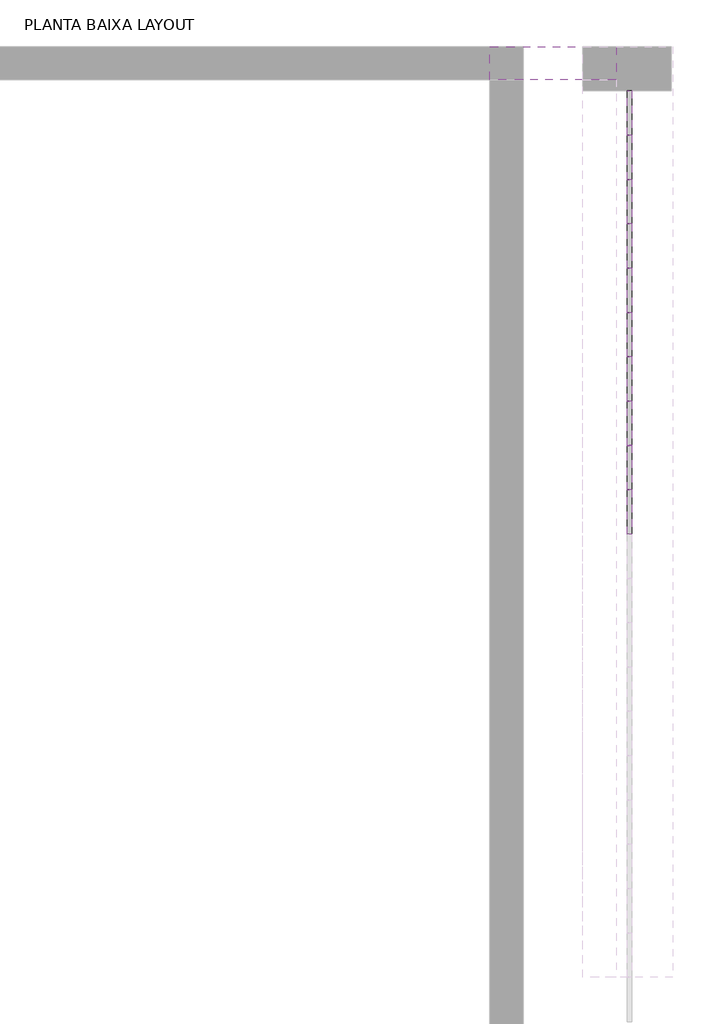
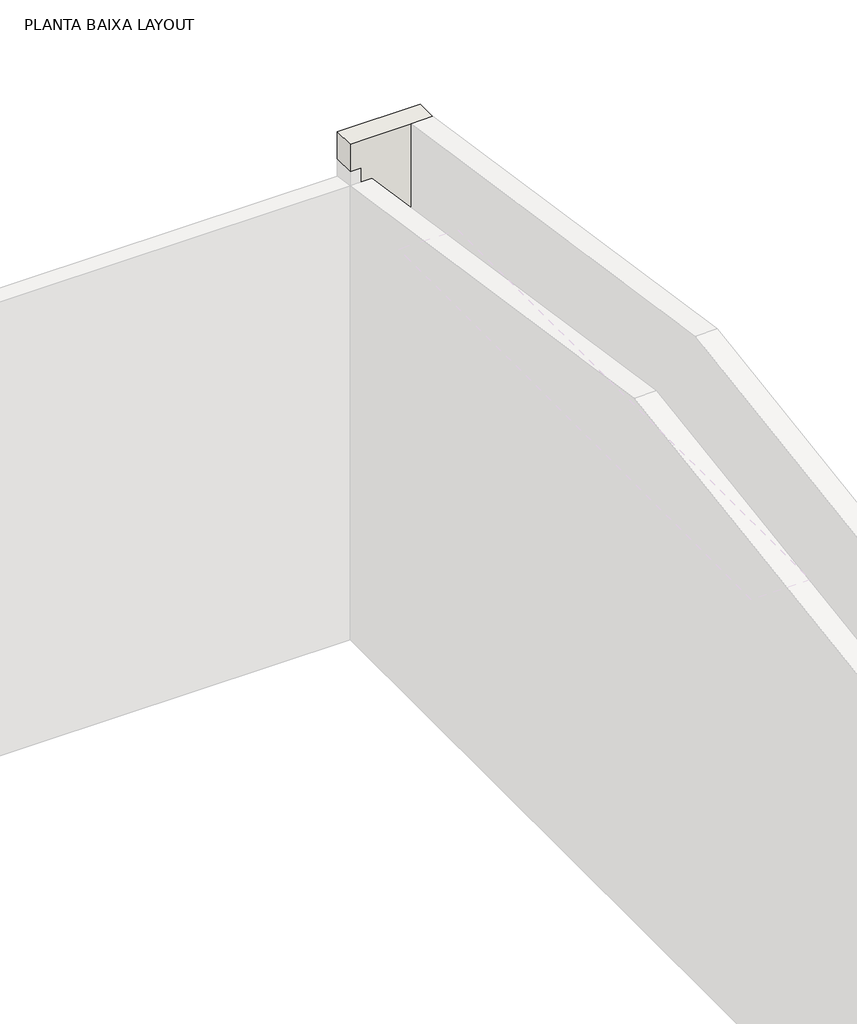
# One storey, part 5 of 6: 122 plates, 1 wall.
"""IFC4 building model written with IfcOpenShell, lengths in millimetres."""

from ifc_helpers import new_model, si_unit, origin, place, context, project, spatial, faceted_brep, transform, mapped, element, save
from components import system_panel_vidro_2cm_d02c202c

model = new_model("IFC4")

# Units and contexts
model_context = context("Model", 3, world=origin())
ifc_project = project(units=[si_unit("LENGTHUNIT", "METRE", prefix="MILLI")], contexts=[model_context])

# Site, building, storey
site = spatial("IfcSite", under=ifc_project)
building = spatial("IfcBuilding", under=site)
storey = spatial("IfcBuildingStorey", under=building, Name="PLANTA BAIXA LAYOUT", Elevation=0.0)

# Plates
placement = place(None, origin())
system_panel_vidro_2cm_shape = system_panel_vidro_2cm_d02c202c(model_context)
element("IfcPlate", 1, ObjectType="System Panel : Vidro 2cm", at=placement, inside=storey, context=model_context, shape_type="MappedRepresentation", body=[
    mapped(system_panel_vidro_2cm_shape, transform((17877.6165906, -2817.0637549, 0.0), x_axis=(0.0, 1.0, 0.0), y_axis=(-1.0, 0.0, 0.0), z_axis=(0.0, 0.0, 1.0))),
])
element("IfcPlate", 2, ObjectType="System Panel : Vidro 2cm", at=placement, inside=storey, context=model_context, shape_type="MappedRepresentation", body=[
    mapped(system_panel_vidro_2cm_shape, transform((17877.6165906, -2617.0637549, 0.0), x_axis=(0.0, 1.0, 0.0), y_axis=(-1.0, 0.0, 0.0), z_axis=(0.0, 0.0, 1.0))),
])
element("IfcPlate", 3, ObjectType="System Panel : Vidro 2cm", at=placement, inside=storey, context=model_context, shape_type="MappedRepresentation", body=[
    mapped(system_panel_vidro_2cm_shape, transform((17877.6165906, -2417.0637549, 0.0), x_axis=(0.0, 1.0, 0.0), y_axis=(-1.0, 0.0, 0.0), z_axis=(0.0, 0.0, 1.0))),
])
element("IfcPlate", 4, ObjectType="System Panel : Vidro 2cm", at=placement, inside=storey, context=model_context, shape_type="MappedRepresentation", body=[
    mapped(system_panel_vidro_2cm_shape, transform((17877.6165906, -3217.0637549, 200.0), x_axis=(0.0, 1.0, 0.0), y_axis=(-1.0, 0.0, 0.0), z_axis=(0.0, 0.0, 1.0))),
])
element("IfcPlate", 5, ObjectType="System Panel : Vidro 2cm", at=placement, inside=storey, context=model_context, shape_type="MappedRepresentation", body=[
    mapped(system_panel_vidro_2cm_shape, transform((17877.6165906, -3017.0637549, 200.0), x_axis=(0.0, 1.0, 0.0), y_axis=(-1.0, 0.0, 0.0), z_axis=(0.0, 0.0, 1.0))),
])
element("IfcPlate", 6, ObjectType="System Panel : Vidro 2cm", at=placement, inside=storey, context=model_context, shape_type="MappedRepresentation", body=[
    mapped(system_panel_vidro_2cm_shape, transform((17877.6165906, -2817.0637549, 200.0), x_axis=(0.0, 1.0, 0.0), y_axis=(-1.0, 0.0, 0.0), z_axis=(0.0, 0.0, 1.0))),
])
element("IfcPlate", 7, ObjectType="System Panel : Vidro 2cm", at=placement, inside=storey, context=model_context, shape_type="MappedRepresentation", body=[
    mapped(system_panel_vidro_2cm_shape, transform((17877.6165906, -2617.0637549, 200.0), x_axis=(0.0, 1.0, 0.0), y_axis=(-1.0, 0.0, 0.0), z_axis=(0.0, 0.0, 1.0))),
])
element("IfcPlate", 8, ObjectType="System Panel : Vidro 2cm", at=placement, inside=storey, context=model_context, shape_type="MappedRepresentation", body=[
    mapped(system_panel_vidro_2cm_shape, transform((17877.6165906, -2417.0637549, 200.0), x_axis=(0.0, 1.0, 0.0), y_axis=(-1.0, 0.0, 0.0), z_axis=(0.0, 0.0, 1.0))),
])
element("IfcPlate", 9, ObjectType="System Panel : Vidro 2cm", at=placement, inside=storey, context=model_context, shape_type="MappedRepresentation", body=[
    mapped(system_panel_vidro_2cm_shape, transform((17877.6165906, -3817.0637549, 400.0), x_axis=(0.0, 1.0, 0.0), y_axis=(-1.0, 0.0, 0.0), z_axis=(0.0, 0.0, 1.0))),
])
element("IfcPlate", 10, ObjectType="System Panel : Vidro 2cm", at=placement, inside=storey, context=model_context, shape_type="MappedRepresentation", body=[
    mapped(system_panel_vidro_2cm_shape, transform((17877.6165906, -3617.0637549, 400.0), x_axis=(0.0, 1.0, 0.0), y_axis=(-1.0, 0.0, 0.0), z_axis=(0.0, 0.0, 1.0))),
])
element("IfcPlate", 11, ObjectType="System Panel : Vidro 2cm", at=placement, inside=storey, context=model_context, shape_type="MappedRepresentation", body=[
    mapped(system_panel_vidro_2cm_shape, transform((17877.6165906, -3417.0637549, 400.0), x_axis=(0.0, 1.0, 0.0), y_axis=(-1.0, 0.0, 0.0), z_axis=(0.0, 0.0, 1.0))),
])
element("IfcPlate", 12, ObjectType="System Panel : Vidro 2cm", at=placement, inside=storey, context=model_context, shape_type="MappedRepresentation", body=[
    mapped(system_panel_vidro_2cm_shape, transform((17877.6165906, -3217.0637549, 400.0), x_axis=(0.0, 1.0, 0.0), y_axis=(-1.0, 0.0, 0.0), z_axis=(0.0, 0.0, 1.0))),
])
element("IfcPlate", 13, ObjectType="System Panel : Vidro 2cm", at=placement, inside=storey, context=model_context, shape_type="MappedRepresentation", body=[
    mapped(system_panel_vidro_2cm_shape, transform((17877.6165906, -3017.0637549, 400.0), x_axis=(0.0, 1.0, 0.0), y_axis=(-1.0, 0.0, 0.0), z_axis=(0.0, 0.0, 1.0))),
])
element("IfcPlate", 14, ObjectType="System Panel : Vidro 2cm", at=placement, inside=storey, context=model_context, shape_type="MappedRepresentation", body=[
    mapped(system_panel_vidro_2cm_shape, transform((17877.6165906, -2817.0637549, 400.0), x_axis=(0.0, 1.0, 0.0), y_axis=(-1.0, 0.0, 0.0), z_axis=(0.0, 0.0, 1.0))),
])
element("IfcPlate", 15, ObjectType="System Panel : Vidro 2cm", at=placement, inside=storey, context=model_context, shape_type="MappedRepresentation", body=[
    mapped(system_panel_vidro_2cm_shape, transform((17877.6165906, -2617.0637549, 400.0), x_axis=(0.0, 1.0, 0.0), y_axis=(-1.0, 0.0, 0.0), z_axis=(0.0, 0.0, 1.0))),
])
element("IfcPlate", 16, ObjectType="System Panel : Vidro 2cm", at=placement, inside=storey, context=model_context, shape_type="MappedRepresentation", body=[
    mapped(system_panel_vidro_2cm_shape, transform((17877.6165906, -2417.0637549, 400.0), x_axis=(0.0, 1.0, 0.0), y_axis=(-1.0, 0.0, 0.0), z_axis=(0.0, 0.0, 1.0))),
])
element("IfcPlate", 17, ObjectType="System Panel : Vidro 2cm", at=placement, inside=storey, context=model_context, shape_type="MappedRepresentation", body=[
    mapped(system_panel_vidro_2cm_shape, transform((17877.6165906, -3817.0637549, 600.0), x_axis=(0.0, 1.0, 0.0), y_axis=(-1.0, 0.0, 0.0), z_axis=(0.0, 0.0, 1.0))),
])
element("IfcPlate", 18, ObjectType="System Panel : Vidro 2cm", at=placement, inside=storey, context=model_context, shape_type="MappedRepresentation", body=[
    mapped(system_panel_vidro_2cm_shape, transform((17877.6165906, -3617.0637549, 600.0), x_axis=(0.0, 1.0, 0.0), y_axis=(-1.0, 0.0, 0.0), z_axis=(0.0, 0.0, 1.0))),
])
element("IfcPlate", 19, ObjectType="System Panel : Vidro 2cm", at=placement, inside=storey, context=model_context, shape_type="MappedRepresentation", body=[
    mapped(system_panel_vidro_2cm_shape, transform((17877.6165906, -3417.0637549, 600.0), x_axis=(0.0, 1.0, 0.0), y_axis=(-1.0, 0.0, 0.0), z_axis=(0.0, 0.0, 1.0))),
])
element("IfcPlate", 20, ObjectType="System Panel : Vidro 2cm", at=placement, inside=storey, context=model_context, shape_type="MappedRepresentation", body=[
    mapped(system_panel_vidro_2cm_shape, transform((17877.6165906, -3217.0637549, 600.0), x_axis=(0.0, 1.0, 0.0), y_axis=(-1.0, 0.0, 0.0), z_axis=(0.0, 0.0, 1.0))),
])
element("IfcPlate", 21, ObjectType="System Panel : Vidro 2cm", at=placement, inside=storey, context=model_context, shape_type="MappedRepresentation", body=[
    mapped(system_panel_vidro_2cm_shape, transform((17877.6165906, -3017.0637549, 600.0), x_axis=(0.0, 1.0, 0.0), y_axis=(-1.0, 0.0, 0.0), z_axis=(0.0, 0.0, 1.0))),
])
element("IfcPlate", 22, ObjectType="System Panel : Vidro 2cm", at=placement, inside=storey, context=model_context, shape_type="MappedRepresentation", body=[
    mapped(system_panel_vidro_2cm_shape, transform((17877.6165906, -2817.0637549, 600.0), x_axis=(0.0, 1.0, 0.0), y_axis=(-1.0, 0.0, 0.0), z_axis=(0.0, 0.0, 1.0))),
])
element("IfcPlate", 23, ObjectType="System Panel : Vidro 2cm", at=placement, inside=storey, context=model_context, shape_type="MappedRepresentation", body=[
    mapped(system_panel_vidro_2cm_shape, transform((17877.6165906, -2617.0637549, 600.0), x_axis=(0.0, 1.0, 0.0), y_axis=(-1.0, 0.0, 0.0), z_axis=(0.0, 0.0, 1.0))),
])
element("IfcPlate", 24, ObjectType="System Panel : Vidro 2cm", at=placement, inside=storey, context=model_context, shape_type="MappedRepresentation", body=[
    mapped(system_panel_vidro_2cm_shape, transform((17877.6165906, -2417.0637549, 600.0), x_axis=(0.0, 1.0, 0.0), y_axis=(-1.0, 0.0, 0.0), z_axis=(0.0, 0.0, 1.0))),
])
element("IfcPlate", 25, ObjectType="System Panel : Vidro 2cm", at=placement, inside=storey, context=model_context, shape_type="MappedRepresentation", body=[
    mapped(system_panel_vidro_2cm_shape, transform((17877.6165906, -3817.0637549, 800.0), x_axis=(0.0, 1.0, 0.0), y_axis=(-1.0, 0.0, 0.0), z_axis=(0.0, 0.0, 1.0))),
])
element("IfcPlate", 26, ObjectType="System Panel : Vidro 2cm", at=placement, inside=storey, context=model_context, shape_type="MappedRepresentation", body=[
    mapped(system_panel_vidro_2cm_shape, transform((17877.6165906, -3617.0637549, 800.0), x_axis=(0.0, 1.0, 0.0), y_axis=(-1.0, 0.0, 0.0), z_axis=(0.0, 0.0, 1.0))),
])
element("IfcPlate", 27, ObjectType="System Panel : Vidro 2cm", at=placement, inside=storey, context=model_context, shape_type="MappedRepresentation", body=[
    mapped(system_panel_vidro_2cm_shape, transform((17877.6165906, -3417.0637549, 800.0), x_axis=(0.0, 1.0, 0.0), y_axis=(-1.0, 0.0, 0.0), z_axis=(0.0, 0.0, 1.0))),
])
element("IfcPlate", 28, ObjectType="System Panel : Vidro 2cm", at=placement, inside=storey, context=model_context, shape_type="MappedRepresentation", body=[
    mapped(system_panel_vidro_2cm_shape, transform((17877.6165906, -3217.0637549, 800.0), x_axis=(0.0, 1.0, 0.0), y_axis=(-1.0, 0.0, 0.0), z_axis=(0.0, 0.0, 1.0))),
])
element("IfcPlate", 29, ObjectType="System Panel : Vidro 2cm", at=placement, inside=storey, context=model_context, shape_type="MappedRepresentation", body=[
    mapped(system_panel_vidro_2cm_shape, transform((17877.6165906, -3017.0637549, 800.0), x_axis=(0.0, 1.0, 0.0), y_axis=(-1.0, 0.0, 0.0), z_axis=(0.0, 0.0, 1.0))),
])
element("IfcPlate", 30, ObjectType="System Panel : Vidro 2cm", at=placement, inside=storey, context=model_context, shape_type="MappedRepresentation", body=[
    mapped(system_panel_vidro_2cm_shape, transform((17877.6165906, -2817.0637549, 800.0), x_axis=(0.0, 1.0, 0.0), y_axis=(-1.0, 0.0, 0.0), z_axis=(0.0, 0.0, 1.0))),
])
element("IfcPlate", 31, ObjectType="System Panel : Vidro 2cm", at=placement, inside=storey, context=model_context, shape_type="MappedRepresentation", body=[
    mapped(system_panel_vidro_2cm_shape, transform((17877.6165906, -2617.0637549, 800.0), x_axis=(0.0, 1.0, 0.0), y_axis=(-1.0, 0.0, 0.0), z_axis=(0.0, 0.0, 1.0))),
])
element("IfcPlate", 32, ObjectType="System Panel : Vidro 2cm", at=placement, inside=storey, context=model_context, shape_type="MappedRepresentation", body=[
    mapped(system_panel_vidro_2cm_shape, transform((17877.6165906, -2417.0637549, 800.0), x_axis=(0.0, 1.0, 0.0), y_axis=(-1.0, 0.0, 0.0), z_axis=(0.0, 0.0, 1.0))),
])
element("IfcPlate", 33, ObjectType="System Panel : Vidro 2cm", at=placement, inside=storey, context=model_context, shape_type="MappedRepresentation", body=[
    mapped(system_panel_vidro_2cm_shape, transform((17877.6165906, -3817.0637549, 1000.0), x_axis=(0.0, 1.0, 0.0), y_axis=(-1.0, 0.0, 0.0), z_axis=(0.0, 0.0, 1.0))),
])
element("IfcPlate", 34, ObjectType="System Panel : Vidro 2cm", at=placement, inside=storey, context=model_context, shape_type="MappedRepresentation", body=[
    mapped(system_panel_vidro_2cm_shape, transform((17877.6165906, -3617.0637549, 1000.0), x_axis=(0.0, 1.0, 0.0), y_axis=(-1.0, 0.0, 0.0), z_axis=(0.0, 0.0, 1.0))),
])
element("IfcPlate", 35, ObjectType="System Panel : Vidro 2cm", at=placement, inside=storey, context=model_context, shape_type="MappedRepresentation", body=[
    mapped(system_panel_vidro_2cm_shape, transform((17877.6165906, -3417.0637549, 1000.0), x_axis=(0.0, 1.0, 0.0), y_axis=(-1.0, 0.0, 0.0), z_axis=(0.0, 0.0, 1.0))),
])
element("IfcPlate", 36, ObjectType="System Panel : Vidro 2cm", at=placement, inside=storey, context=model_context, shape_type="MappedRepresentation", body=[
    mapped(system_panel_vidro_2cm_shape, transform((17877.6165906, -3217.0637549, 1000.0), x_axis=(0.0, 1.0, 0.0), y_axis=(-1.0, 0.0, 0.0), z_axis=(0.0, 0.0, 1.0))),
])
element("IfcPlate", 37, ObjectType="System Panel : Vidro 2cm", at=placement, inside=storey, context=model_context, shape_type="MappedRepresentation", body=[
    mapped(system_panel_vidro_2cm_shape, transform((17877.6165906, -3017.0637549, 1000.0), x_axis=(0.0, 1.0, 0.0), y_axis=(-1.0, 0.0, 0.0), z_axis=(0.0, 0.0, 1.0))),
])
element("IfcPlate", 38, ObjectType="System Panel : Vidro 2cm", at=placement, inside=storey, context=model_context, shape_type="MappedRepresentation", body=[
    mapped(system_panel_vidro_2cm_shape, transform((17877.6165906, -2817.0637549, 1000.0), x_axis=(0.0, 1.0, 0.0), y_axis=(-1.0, 0.0, 0.0), z_axis=(0.0, 0.0, 1.0))),
])
element("IfcPlate", 39, ObjectType="System Panel : Vidro 2cm", at=placement, inside=storey, context=model_context, shape_type="MappedRepresentation", body=[
    mapped(system_panel_vidro_2cm_shape, transform((17877.6165906, -2617.0637549, 1000.0), x_axis=(0.0, 1.0, 0.0), y_axis=(-1.0, 0.0, 0.0), z_axis=(0.0, 0.0, 1.0))),
])
element("IfcPlate", 40, ObjectType="System Panel : Vidro 2cm", at=placement, inside=storey, context=model_context, shape_type="MappedRepresentation", body=[
    mapped(system_panel_vidro_2cm_shape, transform((17877.6165906, -2417.0637549, 1000.0), x_axis=(0.0, 1.0, 0.0), y_axis=(-1.0, 0.0, 0.0), z_axis=(0.0, 0.0, 1.0))),
])
element("IfcPlate", 41, ObjectType="System Panel : Vidro 2cm", at=placement, inside=storey, context=model_context, shape_type="MappedRepresentation", body=[
    mapped(system_panel_vidro_2cm_shape, transform((17877.6165906, -3817.0637549, 1200.0), x_axis=(0.0, 1.0, 0.0), y_axis=(-1.0, 0.0, 0.0), z_axis=(0.0, 0.0, 1.0))),
])
element("IfcPlate", 42, ObjectType="System Panel : Vidro 2cm", at=placement, inside=storey, context=model_context, shape_type="MappedRepresentation", body=[
    mapped(system_panel_vidro_2cm_shape, transform((17877.6165906, -3617.0637549, 1200.0), x_axis=(0.0, 1.0, 0.0), y_axis=(-1.0, 0.0, 0.0), z_axis=(0.0, 0.0, 1.0))),
])
element("IfcPlate", 43, ObjectType="System Panel : Vidro 2cm", at=placement, inside=storey, context=model_context, shape_type="MappedRepresentation", body=[
    mapped(system_panel_vidro_2cm_shape, transform((17877.6165906, -3417.0637549, 1200.0), x_axis=(0.0, 1.0, 0.0), y_axis=(-1.0, 0.0, 0.0), z_axis=(0.0, 0.0, 1.0))),
])
element("IfcPlate", 44, ObjectType="System Panel : Vidro 2cm", at=placement, inside=storey, context=model_context, shape_type="MappedRepresentation", body=[
    mapped(system_panel_vidro_2cm_shape, transform((17877.6165906, -3217.0637549, 1200.0), x_axis=(0.0, 1.0, 0.0), y_axis=(-1.0, 0.0, 0.0), z_axis=(0.0, 0.0, 1.0))),
])
element("IfcPlate", 45, ObjectType="System Panel : Vidro 2cm", at=placement, inside=storey, context=model_context, shape_type="MappedRepresentation", body=[
    mapped(system_panel_vidro_2cm_shape, transform((17877.6165906, -3017.0637549, 1200.0), x_axis=(0.0, 1.0, 0.0), y_axis=(-1.0, 0.0, 0.0), z_axis=(0.0, 0.0, 1.0))),
])
element("IfcPlate", 46, ObjectType="System Panel : Vidro 2cm", at=placement, inside=storey, context=model_context, shape_type="MappedRepresentation", body=[
    mapped(system_panel_vidro_2cm_shape, transform((17877.6165906, -2817.0637549, 1200.0), x_axis=(0.0, 1.0, 0.0), y_axis=(-1.0, 0.0, 0.0), z_axis=(0.0, 0.0, 1.0))),
])
element("IfcPlate", 47, ObjectType="System Panel : Vidro 2cm", at=placement, inside=storey, context=model_context, shape_type="MappedRepresentation", body=[
    mapped(system_panel_vidro_2cm_shape, transform((17877.6165906, -2617.0637549, 1200.0), x_axis=(0.0, 1.0, 0.0), y_axis=(-1.0, 0.0, 0.0), z_axis=(0.0, 0.0, 1.0))),
])
element("IfcPlate", 48, ObjectType="System Panel : Vidro 2cm", at=placement, inside=storey, context=model_context, shape_type="MappedRepresentation", body=[
    mapped(system_panel_vidro_2cm_shape, transform((17877.6165906, -2417.0637549, 1200.0), x_axis=(0.0, 1.0, 0.0), y_axis=(-1.0, 0.0, 0.0), z_axis=(0.0, 0.0, 1.0))),
])
element("IfcPlate", 49, ObjectType="System Panel : Vidro 2cm", at=placement, inside=storey, context=model_context, shape_type="MappedRepresentation", body=[
    mapped(system_panel_vidro_2cm_shape, transform((17877.6165906, -3817.0637549, 1400.0), x_axis=(0.0, 1.0, 0.0), y_axis=(-1.0, 0.0, 0.0), z_axis=(0.0, 0.0, 1.0))),
])
element("IfcPlate", 50, ObjectType="System Panel : Vidro 2cm", at=placement, inside=storey, context=model_context, shape_type="MappedRepresentation", body=[
    mapped(system_panel_vidro_2cm_shape, transform((17877.6165906, -3617.0637549, 1400.0), x_axis=(0.0, 1.0, 0.0), y_axis=(-1.0, 0.0, 0.0), z_axis=(0.0, 0.0, 1.0))),
])
element("IfcPlate", 51, ObjectType="System Panel : Vidro 2cm", at=placement, inside=storey, context=model_context, shape_type="MappedRepresentation", body=[
    mapped(system_panel_vidro_2cm_shape, transform((17877.6165906, -3417.0637549, 1400.0), x_axis=(0.0, 1.0, 0.0), y_axis=(-1.0, 0.0, 0.0), z_axis=(0.0, 0.0, 1.0))),
])
element("IfcPlate", 52, ObjectType="System Panel : Vidro 2cm", at=placement, inside=storey, context=model_context, shape_type="MappedRepresentation", body=[
    mapped(system_panel_vidro_2cm_shape, transform((17877.6165906, -3217.0637549, 1400.0), x_axis=(0.0, 1.0, 0.0), y_axis=(-1.0, 0.0, 0.0), z_axis=(0.0, 0.0, 1.0))),
])
element("IfcPlate", 53, ObjectType="System Panel : Vidro 2cm", at=placement, inside=storey, context=model_context, shape_type="MappedRepresentation", body=[
    mapped(system_panel_vidro_2cm_shape, transform((17877.6165906, -3017.0637549, 1400.0), x_axis=(0.0, 1.0, 0.0), y_axis=(-1.0, 0.0, 0.0), z_axis=(0.0, 0.0, 1.0))),
])
element("IfcPlate", 54, ObjectType="System Panel : Vidro 2cm", at=placement, inside=storey, context=model_context, shape_type="MappedRepresentation", body=[
    mapped(system_panel_vidro_2cm_shape, transform((17877.6165906, -2817.0637549, 1400.0), x_axis=(0.0, 1.0, 0.0), y_axis=(-1.0, 0.0, 0.0), z_axis=(0.0, 0.0, 1.0))),
])
element("IfcPlate", 55, ObjectType="System Panel : Vidro 2cm", at=placement, inside=storey, context=model_context, shape_type="MappedRepresentation", body=[
    mapped(system_panel_vidro_2cm_shape, transform((17877.6165906, -2617.0637549, 1400.0), x_axis=(0.0, 1.0, 0.0), y_axis=(-1.0, 0.0, 0.0), z_axis=(0.0, 0.0, 1.0))),
])
element("IfcPlate", 56, ObjectType="System Panel : Vidro 2cm", at=placement, inside=storey, context=model_context, shape_type="MappedRepresentation", body=[
    mapped(system_panel_vidro_2cm_shape, transform((17877.6165906, -2417.0637549, 1400.0), x_axis=(0.0, 1.0, 0.0), y_axis=(-1.0, 0.0, 0.0), z_axis=(0.0, 0.0, 1.0))),
])
element("IfcPlate", 57, ObjectType="System Panel : Vidro 2cm", at=placement, inside=storey, context=model_context, shape_type="MappedRepresentation", body=[
    mapped(system_panel_vidro_2cm_shape, transform((17877.6165906, -3817.0637549, 1600.0), x_axis=(0.0, 1.0, 0.0), y_axis=(-1.0, 0.0, 0.0), z_axis=(0.0, 0.0, 1.0))),
])
element("IfcPlate", 58, ObjectType="System Panel : Vidro 2cm", at=placement, inside=storey, context=model_context, shape_type="MappedRepresentation", body=[
    mapped(system_panel_vidro_2cm_shape, transform((17877.6165906, -3617.0637549, 1600.0), x_axis=(0.0, 1.0, 0.0), y_axis=(-1.0, 0.0, 0.0), z_axis=(0.0, 0.0, 1.0))),
])
element("IfcPlate", 59, ObjectType="System Panel : Vidro 2cm", at=placement, inside=storey, context=model_context, shape_type="MappedRepresentation", body=[
    mapped(system_panel_vidro_2cm_shape, transform((17877.6165906, -3417.0637549, 1600.0), x_axis=(0.0, 1.0, 0.0), y_axis=(-1.0, 0.0, 0.0), z_axis=(0.0, 0.0, 1.0))),
])
element("IfcPlate", 60, ObjectType="System Panel : Vidro 2cm", at=placement, inside=storey, context=model_context, shape_type="MappedRepresentation", body=[
    mapped(system_panel_vidro_2cm_shape, transform((17877.6165906, -3217.0637549, 1600.0), x_axis=(0.0, 1.0, 0.0), y_axis=(-1.0, 0.0, 0.0), z_axis=(0.0, 0.0, 1.0))),
])
element("IfcPlate", 61, ObjectType="System Panel : Vidro 2cm", at=placement, inside=storey, context=model_context, shape_type="MappedRepresentation", body=[
    mapped(system_panel_vidro_2cm_shape, transform((17877.6165906, -3017.0637549, 1600.0), x_axis=(0.0, 1.0, 0.0), y_axis=(-1.0, 0.0, 0.0), z_axis=(0.0, 0.0, 1.0))),
])
element("IfcPlate", 62, ObjectType="System Panel : Vidro 2cm", at=placement, inside=storey, context=model_context, shape_type="MappedRepresentation", body=[
    mapped(system_panel_vidro_2cm_shape, transform((17877.6165906, -2817.0637549, 1600.0), x_axis=(0.0, 1.0, 0.0), y_axis=(-1.0, 0.0, 0.0), z_axis=(0.0, 0.0, 1.0))),
])
element("IfcPlate", 63, ObjectType="System Panel : Vidro 2cm", at=placement, inside=storey, context=model_context, shape_type="MappedRepresentation", body=[
    mapped(system_panel_vidro_2cm_shape, transform((17877.6165906, -2617.0637549, 1600.0), x_axis=(0.0, 1.0, 0.0), y_axis=(-1.0, 0.0, 0.0), z_axis=(0.0, 0.0, 1.0))),
])
element("IfcPlate", 64, ObjectType="System Panel : Vidro 2cm", at=placement, inside=storey, context=model_context, shape_type="MappedRepresentation", body=[
    mapped(system_panel_vidro_2cm_shape, transform((17877.6165906, -2417.0637549, 1600.0), x_axis=(0.0, 1.0, 0.0), y_axis=(-1.0, 0.0, 0.0), z_axis=(0.0, 0.0, 1.0))),
])
element("IfcPlate", 65, ObjectType="System Panel : Vidro 2cm", at=placement, inside=storey, context=model_context, shape_type="MappedRepresentation", body=[
    mapped(system_panel_vidro_2cm_shape, transform((17877.6165906, -3817.0637549, 1800.0), x_axis=(0.0, 1.0, 0.0), y_axis=(-1.0, 0.0, 0.0), z_axis=(0.0, 0.0, 1.0))),
])
element("IfcPlate", 66, ObjectType="System Panel : Vidro 2cm", at=placement, inside=storey, context=model_context, shape_type="MappedRepresentation", body=[
    mapped(system_panel_vidro_2cm_shape, transform((17877.6165906, -3617.0637549, 1800.0), x_axis=(0.0, 1.0, 0.0), y_axis=(-1.0, 0.0, 0.0), z_axis=(0.0, 0.0, 1.0))),
])
element("IfcPlate", 67, ObjectType="System Panel : Vidro 2cm", at=placement, inside=storey, context=model_context, shape_type="MappedRepresentation", body=[
    mapped(system_panel_vidro_2cm_shape, transform((17877.6165906, -3417.0637549, 1800.0), x_axis=(0.0, 1.0, 0.0), y_axis=(-1.0, 0.0, 0.0), z_axis=(0.0, 0.0, 1.0))),
])
element("IfcPlate", 68, ObjectType="System Panel : Vidro 2cm", at=placement, inside=storey, context=model_context, shape_type="MappedRepresentation", body=[
    mapped(system_panel_vidro_2cm_shape, transform((17877.6165906, -3217.0637549, 1800.0), x_axis=(0.0, 1.0, 0.0), y_axis=(-1.0, 0.0, 0.0), z_axis=(0.0, 0.0, 1.0))),
])
element("IfcPlate", 69, ObjectType="System Panel : Vidro 2cm", at=placement, inside=storey, context=model_context, shape_type="MappedRepresentation", body=[
    mapped(system_panel_vidro_2cm_shape, transform((17877.6165906, -3017.0637549, 1800.0), x_axis=(0.0, 1.0, 0.0), y_axis=(-1.0, 0.0, 0.0), z_axis=(0.0, 0.0, 1.0))),
])
element("IfcPlate", 70, ObjectType="System Panel : Vidro 2cm", at=placement, inside=storey, context=model_context, shape_type="MappedRepresentation", body=[
    mapped(system_panel_vidro_2cm_shape, transform((17877.6165906, -2817.0637549, 1800.0), x_axis=(0.0, 1.0, 0.0), y_axis=(-1.0, 0.0, 0.0), z_axis=(0.0, 0.0, 1.0))),
])
element("IfcPlate", 71, ObjectType="System Panel : Vidro 2cm", at=placement, inside=storey, context=model_context, shape_type="MappedRepresentation", body=[
    mapped(system_panel_vidro_2cm_shape, transform((17877.6165906, -2617.0637549, 1800.0), x_axis=(0.0, 1.0, 0.0), y_axis=(-1.0, 0.0, 0.0), z_axis=(0.0, 0.0, 1.0))),
])
element("IfcPlate", 72, ObjectType="System Panel : Vidro 2cm", at=placement, inside=storey, context=model_context, shape_type="MappedRepresentation", body=[
    mapped(system_panel_vidro_2cm_shape, transform((17877.6165906, -2417.0637549, 1800.0), x_axis=(0.0, 1.0, 0.0), y_axis=(-1.0, 0.0, 0.0), z_axis=(0.0, 0.0, 1.0))),
])
element("IfcPlate", 73, ObjectType="System Panel : Vidro 2cm", at=placement, inside=storey, context=model_context, shape_type="MappedRepresentation", body=[
    mapped(system_panel_vidro_2cm_shape, transform((17877.6165906, -3817.0637549, 2000.0), x_axis=(0.0, 1.0, 0.0), y_axis=(-1.0, 0.0, 0.0), z_axis=(0.0, 0.0, 1.0))),
])
element("IfcPlate", 74, ObjectType="System Panel : Vidro 2cm", at=placement, inside=storey, context=model_context, shape_type="MappedRepresentation", body=[
    mapped(system_panel_vidro_2cm_shape, transform((17877.6165906, -3617.0637549, 2000.0), x_axis=(0.0, 1.0, 0.0), y_axis=(-1.0, 0.0, 0.0), z_axis=(0.0, 0.0, 1.0))),
])
element("IfcPlate", 75, ObjectType="System Panel : Vidro 2cm", at=placement, inside=storey, context=model_context, shape_type="MappedRepresentation", body=[
    mapped(system_panel_vidro_2cm_shape, transform((17877.6165906, -3417.0637549, 2000.0), x_axis=(0.0, 1.0, 0.0), y_axis=(-1.0, 0.0, 0.0), z_axis=(0.0, 0.0, 1.0))),
])
element("IfcPlate", 76, ObjectType="System Panel : Vidro 2cm", at=placement, inside=storey, context=model_context, shape_type="MappedRepresentation", body=[
    mapped(system_panel_vidro_2cm_shape, transform((17877.6165906, -3217.0637549, 2000.0), x_axis=(0.0, 1.0, 0.0), y_axis=(-1.0, 0.0, 0.0), z_axis=(0.0, 0.0, 1.0))),
])
element("IfcPlate", 77, ObjectType="System Panel : Vidro 2cm", at=placement, inside=storey, context=model_context, shape_type="MappedRepresentation", body=[
    mapped(system_panel_vidro_2cm_shape, transform((17877.6165906, -3017.0637549, 2000.0), x_axis=(0.0, 1.0, 0.0), y_axis=(-1.0, 0.0, 0.0), z_axis=(0.0, 0.0, 1.0))),
])
element("IfcPlate", 78, ObjectType="System Panel : Vidro 2cm", at=placement, inside=storey, context=model_context, shape_type="MappedRepresentation", body=[
    mapped(system_panel_vidro_2cm_shape, transform((17877.6165906, -2817.0637549, 2000.0), x_axis=(0.0, 1.0, 0.0), y_axis=(-1.0, 0.0, 0.0), z_axis=(0.0, 0.0, 1.0))),
])
element("IfcPlate", 79, ObjectType="System Panel : Vidro 2cm", at=placement, inside=storey, context=model_context, shape_type="MappedRepresentation", body=[
    mapped(system_panel_vidro_2cm_shape, transform((17877.6165906, -2617.0637549, 2000.0), x_axis=(0.0, 1.0, 0.0), y_axis=(-1.0, 0.0, 0.0), z_axis=(0.0, 0.0, 1.0))),
])
element("IfcPlate", 80, ObjectType="System Panel : Vidro 2cm", at=placement, inside=storey, context=model_context, shape_type="MappedRepresentation", body=[
    mapped(system_panel_vidro_2cm_shape, transform((17877.6165906, -2417.0637549, 2000.0), x_axis=(0.0, 1.0, 0.0), y_axis=(-1.0, 0.0, 0.0), z_axis=(0.0, 0.0, 1.0))),
])
element("IfcPlate", 81, ObjectType="System Panel : Vidro 2cm", at=placement, inside=storey, context=model_context, shape_type="MappedRepresentation", body=[
    mapped(system_panel_vidro_2cm_shape, transform((17877.6165906, -3817.0637549, 2200.0), x_axis=(0.0, 1.0, 0.0), y_axis=(-1.0, 0.0, 0.0), z_axis=(0.0, 0.0, 1.0))),
])
element("IfcPlate", 82, ObjectType="System Panel : Vidro 2cm", at=placement, inside=storey, context=model_context, shape_type="MappedRepresentation", body=[
    mapped(system_panel_vidro_2cm_shape, transform((17877.6165906, -3617.0637549, 2200.0), x_axis=(0.0, 1.0, 0.0), y_axis=(-1.0, 0.0, 0.0), z_axis=(0.0, 0.0, 1.0))),
])
element("IfcPlate", 83, ObjectType="System Panel : Vidro 2cm", at=placement, inside=storey, context=model_context, shape_type="MappedRepresentation", body=[
    mapped(system_panel_vidro_2cm_shape, transform((17877.6165906, -3417.0637549, 2200.0), x_axis=(0.0, 1.0, 0.0), y_axis=(-1.0, 0.0, 0.0), z_axis=(0.0, 0.0, 1.0))),
])
element("IfcPlate", 84, ObjectType="System Panel : Vidro 2cm", at=placement, inside=storey, context=model_context, shape_type="MappedRepresentation", body=[
    mapped(system_panel_vidro_2cm_shape, transform((17877.6165906, -3217.0637549, 2200.0), x_axis=(0.0, 1.0, 0.0), y_axis=(-1.0, 0.0, 0.0), z_axis=(0.0, 0.0, 1.0))),
])
element("IfcPlate", 85, ObjectType="System Panel : Vidro 2cm", at=placement, inside=storey, context=model_context, shape_type="MappedRepresentation", body=[
    mapped(system_panel_vidro_2cm_shape, transform((17877.6165906, -3017.0637549, 2200.0), x_axis=(0.0, 1.0, 0.0), y_axis=(-1.0, 0.0, 0.0), z_axis=(0.0, 0.0, 1.0))),
])
element("IfcPlate", 86, ObjectType="System Panel : Vidro 2cm", at=placement, inside=storey, context=model_context, shape_type="MappedRepresentation", body=[
    mapped(system_panel_vidro_2cm_shape, transform((17877.6165906, -2817.0637549, 2200.0), x_axis=(0.0, 1.0, 0.0), y_axis=(-1.0, 0.0, 0.0), z_axis=(0.0, 0.0, 1.0))),
])
element("IfcPlate", 87, ObjectType="System Panel : Vidro 2cm", at=placement, inside=storey, context=model_context, shape_type="MappedRepresentation", body=[
    mapped(system_panel_vidro_2cm_shape, transform((17877.6165906, -2617.0637549, 2200.0), x_axis=(0.0, 1.0, 0.0), y_axis=(-1.0, 0.0, 0.0), z_axis=(0.0, 0.0, 1.0))),
])
element("IfcPlate", 88, ObjectType="System Panel : Vidro 2cm", at=placement, inside=storey, context=model_context, shape_type="MappedRepresentation", body=[
    mapped(system_panel_vidro_2cm_shape, transform((17877.6165906, -2417.0637549, 2200.0), x_axis=(0.0, 1.0, 0.0), y_axis=(-1.0, 0.0, 0.0), z_axis=(0.0, 0.0, 1.0))),
])
element("IfcPlate", 89, ObjectType="System Panel : Vidro 2cm", at=placement, inside=storey, context=model_context, shape_type="MappedRepresentation", body=[
    mapped(system_panel_vidro_2cm_shape, transform((17877.6165906, -3817.0637549, 2400.0), x_axis=(0.0, 1.0, 0.0), y_axis=(-1.0, 0.0, 0.0), z_axis=(0.0, 0.0, 1.0))),
])
element("IfcPlate", 90, ObjectType="System Panel : Vidro 2cm", at=placement, inside=storey, context=model_context, shape_type="MappedRepresentation", body=[
    mapped(system_panel_vidro_2cm_shape, transform((17877.6165906, -3617.0637549, 2400.0), x_axis=(0.0, 1.0, 0.0), y_axis=(-1.0, 0.0, 0.0), z_axis=(0.0, 0.0, 1.0))),
])
element("IfcPlate", 91, ObjectType="System Panel : Vidro 2cm", at=placement, inside=storey, context=model_context, shape_type="MappedRepresentation", body=[
    mapped(system_panel_vidro_2cm_shape, transform((17877.6165906, -3417.0637549, 2400.0), x_axis=(0.0, 1.0, 0.0), y_axis=(-1.0, 0.0, 0.0), z_axis=(0.0, 0.0, 1.0))),
])
element("IfcPlate", 92, ObjectType="System Panel : Vidro 2cm", at=placement, inside=storey, context=model_context, shape_type="MappedRepresentation", body=[
    mapped(system_panel_vidro_2cm_shape, transform((17877.6165906, -3217.0637549, 2400.0), x_axis=(0.0, 1.0, 0.0), y_axis=(-1.0, 0.0, 0.0), z_axis=(0.0, 0.0, 1.0))),
])
element("IfcPlate", 93, ObjectType="System Panel : Vidro 2cm", at=placement, inside=storey, context=model_context, shape_type="MappedRepresentation", body=[
    mapped(system_panel_vidro_2cm_shape, transform((17877.6165906, -3017.0637549, 2400.0), x_axis=(0.0, 1.0, 0.0), y_axis=(-1.0, 0.0, 0.0), z_axis=(0.0, 0.0, 1.0))),
])
element("IfcPlate", 94, ObjectType="System Panel : Vidro 2cm", at=placement, inside=storey, context=model_context, shape_type="MappedRepresentation", body=[
    mapped(system_panel_vidro_2cm_shape, transform((17877.6165906, -2817.0637549, 2400.0), x_axis=(0.0, 1.0, 0.0), y_axis=(-1.0, 0.0, 0.0), z_axis=(0.0, 0.0, 1.0))),
])
element("IfcPlate", 95, ObjectType="System Panel : Vidro 2cm", at=placement, inside=storey, context=model_context, shape_type="MappedRepresentation", body=[
    mapped(system_panel_vidro_2cm_shape, transform((17877.6165906, -2617.0637549, 2400.0), x_axis=(0.0, 1.0, 0.0), y_axis=(-1.0, 0.0, 0.0), z_axis=(0.0, 0.0, 1.0))),
])
element("IfcPlate", 96, ObjectType="System Panel : Vidro 2cm", at=placement, inside=storey, context=model_context, shape_type="MappedRepresentation", body=[
    mapped(system_panel_vidro_2cm_shape, transform((17877.6165906, -2417.0637549, 2400.0), x_axis=(0.0, 1.0, 0.0), y_axis=(-1.0, 0.0, 0.0), z_axis=(0.0, 0.0, 1.0))),
])
element("IfcPlate", 97, ObjectType="System Panel : Vidro 2cm", at=placement, inside=storey, context=model_context, shape_type="MappedRepresentation", body=[
    mapped(system_panel_vidro_2cm_shape, transform((17877.6165906, -2217.0637549, 0.0), x_axis=(0.0, 1.0, 0.0), y_axis=(-1.0, 0.0, 0.0), z_axis=(0.0, 0.0, 1.0))),
])
element("IfcPlate", 98, ObjectType="System Panel : Vidro 2cm", at=placement, inside=storey, context=model_context, shape_type="MappedRepresentation", body=[
    mapped(system_panel_vidro_2cm_shape, transform((17877.6165906, -2217.0637549, 200.0), x_axis=(0.0, 1.0, 0.0), y_axis=(-1.0, 0.0, 0.0), z_axis=(0.0, 0.0, 1.0))),
])
element("IfcPlate", 99, ObjectType="System Panel : Vidro 2cm", at=placement, inside=storey, context=model_context, shape_type="MappedRepresentation", body=[
    mapped(system_panel_vidro_2cm_shape, transform((17877.6165906, -2217.0637549, 400.0), x_axis=(0.0, 1.0, 0.0), y_axis=(-1.0, 0.0, 0.0), z_axis=(0.0, 0.0, 1.0))),
])
element("IfcPlate", 100, ObjectType="System Panel : Vidro 2cm", at=placement, inside=storey, context=model_context, shape_type="MappedRepresentation", body=[
    mapped(system_panel_vidro_2cm_shape, transform((17877.6165906, -2217.0637549, 600.0), x_axis=(0.0, 1.0, 0.0), y_axis=(-1.0, 0.0, 0.0), z_axis=(0.0, 0.0, 1.0))),
])
element("IfcPlate", 101, ObjectType="System Panel : Vidro 2cm", at=placement, inside=storey, context=model_context, shape_type="MappedRepresentation", body=[
    mapped(system_panel_vidro_2cm_shape, transform((17877.6165906, -2217.0637549, 800.0), x_axis=(0.0, 1.0, 0.0), y_axis=(-1.0, 0.0, 0.0), z_axis=(0.0, 0.0, 1.0))),
])
element("IfcPlate", 102, ObjectType="System Panel : Vidro 2cm", at=placement, inside=storey, context=model_context, shape_type="MappedRepresentation", body=[
    mapped(system_panel_vidro_2cm_shape, transform((17877.6165906, -2217.0637549, 1000.0), x_axis=(0.0, 1.0, 0.0), y_axis=(-1.0, 0.0, 0.0), z_axis=(0.0, 0.0, 1.0))),
])
element("IfcPlate", 103, ObjectType="System Panel : Vidro 2cm", at=placement, inside=storey, context=model_context, shape_type="MappedRepresentation", body=[
    mapped(system_panel_vidro_2cm_shape, transform((17877.6165906, -2217.0637549, 1200.0), x_axis=(0.0, 1.0, 0.0), y_axis=(-1.0, 0.0, 0.0), z_axis=(0.0, 0.0, 1.0))),
])
element("IfcPlate", 104, ObjectType="System Panel : Vidro 2cm", at=placement, inside=storey, context=model_context, shape_type="MappedRepresentation", body=[
    mapped(system_panel_vidro_2cm_shape, transform((17877.6165906, -2217.0637549, 1400.0), x_axis=(0.0, 1.0, 0.0), y_axis=(-1.0, 0.0, 0.0), z_axis=(0.0, 0.0, 1.0))),
])
element("IfcPlate", 105, ObjectType="System Panel : Vidro 2cm", at=placement, inside=storey, context=model_context, shape_type="MappedRepresentation", body=[
    mapped(system_panel_vidro_2cm_shape, transform((17877.6165906, -2217.0637549, 1600.0), x_axis=(0.0, 1.0, 0.0), y_axis=(-1.0, 0.0, 0.0), z_axis=(0.0, 0.0, 1.0))),
])
element("IfcPlate", 106, ObjectType="System Panel : Vidro 2cm", at=placement, inside=storey, context=model_context, shape_type="MappedRepresentation", body=[
    mapped(system_panel_vidro_2cm_shape, transform((17877.6165906, -2217.0637549, 1800.0), x_axis=(0.0, 1.0, 0.0), y_axis=(-1.0, 0.0, 0.0), z_axis=(0.0, 0.0, 1.0))),
])
element("IfcPlate", 107, ObjectType="System Panel : Vidro 2cm", at=placement, inside=storey, context=model_context, shape_type="MappedRepresentation", body=[
    mapped(system_panel_vidro_2cm_shape, transform((17877.6165906, -2217.0637549, 2000.0), x_axis=(0.0, 1.0, 0.0), y_axis=(-1.0, 0.0, 0.0), z_axis=(0.0, 0.0, 1.0))),
])
element("IfcPlate", 108, ObjectType="System Panel : Vidro 2cm", at=placement, inside=storey, context=model_context, shape_type="MappedRepresentation", body=[
    mapped(system_panel_vidro_2cm_shape, transform((17877.6165906, -2217.0637549, 2200.0), x_axis=(0.0, 1.0, 0.0), y_axis=(-1.0, 0.0, 0.0), z_axis=(0.0, 0.0, 1.0))),
])
element("IfcPlate", 109, ObjectType="System Panel : Vidro 2cm", at=placement, inside=storey, context=model_context, shape_type="MappedRepresentation", body=[
    mapped(system_panel_vidro_2cm_shape, transform((17877.6165906, -2217.0637549, 2400.0), x_axis=(0.0, 1.0, 0.0), y_axis=(-1.0, 0.0, 0.0), z_axis=(0.0, 0.0, 1.0))),
])
element("IfcPlate", 110, ObjectType="System Panel : Vidro 2cm", at=placement, inside=storey, context=model_context, shape_type="MappedRepresentation", body=[
    mapped(system_panel_vidro_2cm_shape, transform((17877.6165906, -2017.0637549, 0.0), x_axis=(0.0, 1.0, 0.0), y_axis=(-1.0, 0.0, 0.0), z_axis=(0.0, 0.0, 1.0))),
])
element("IfcPlate", 111, ObjectType="System Panel : Vidro 2cm", at=placement, inside=storey, context=model_context, shape_type="MappedRepresentation", body=[
    mapped(system_panel_vidro_2cm_shape, transform((17877.6165906, -2017.0637549, 200.0), x_axis=(0.0, 1.0, 0.0), y_axis=(-1.0, 0.0, 0.0), z_axis=(0.0, 0.0, 1.0))),
])
element("IfcPlate", 112, ObjectType="System Panel : Vidro 2cm", at=placement, inside=storey, context=model_context, shape_type="MappedRepresentation", body=[
    mapped(system_panel_vidro_2cm_shape, transform((17877.6165906, -2017.0637549, 400.0), x_axis=(0.0, 1.0, 0.0), y_axis=(-1.0, 0.0, 0.0), z_axis=(0.0, 0.0, 1.0))),
])
element("IfcPlate", 113, ObjectType="System Panel : Vidro 2cm", at=placement, inside=storey, context=model_context, shape_type="MappedRepresentation", body=[
    mapped(system_panel_vidro_2cm_shape, transform((17877.6165906, -2017.0637549, 600.0), x_axis=(0.0, 1.0, 0.0), y_axis=(-1.0, 0.0, 0.0), z_axis=(0.0, 0.0, 1.0))),
])
element("IfcPlate", 114, ObjectType="System Panel : Vidro 2cm", at=placement, inside=storey, context=model_context, shape_type="MappedRepresentation", body=[
    mapped(system_panel_vidro_2cm_shape, transform((17877.6165906, -2017.0637549, 800.0), x_axis=(0.0, 1.0, 0.0), y_axis=(-1.0, 0.0, 0.0), z_axis=(0.0, 0.0, 1.0))),
])
element("IfcPlate", 115, ObjectType="System Panel : Vidro 2cm", at=placement, inside=storey, context=model_context, shape_type="MappedRepresentation", body=[
    mapped(system_panel_vidro_2cm_shape, transform((17877.6165906, -2017.0637549, 1000.0), x_axis=(0.0, 1.0, 0.0), y_axis=(-1.0, 0.0, 0.0), z_axis=(0.0, 0.0, 1.0))),
])
element("IfcPlate", 116, ObjectType="System Panel : Vidro 2cm", at=placement, inside=storey, context=model_context, shape_type="MappedRepresentation", body=[
    mapped(system_panel_vidro_2cm_shape, transform((17877.6165906, -2017.0637549, 1200.0), x_axis=(0.0, 1.0, 0.0), y_axis=(-1.0, 0.0, 0.0), z_axis=(0.0, 0.0, 1.0))),
])
element("IfcPlate", 117, ObjectType="System Panel : Vidro 2cm", at=placement, inside=storey, context=model_context, shape_type="MappedRepresentation", body=[
    mapped(system_panel_vidro_2cm_shape, transform((17877.6165906, -2017.0637549, 1400.0), x_axis=(0.0, 1.0, 0.0), y_axis=(-1.0, 0.0, 0.0), z_axis=(0.0, 0.0, 1.0))),
])
element("IfcPlate", 118, ObjectType="System Panel : Vidro 2cm", at=placement, inside=storey, context=model_context, shape_type="MappedRepresentation", body=[
    mapped(system_panel_vidro_2cm_shape, transform((17877.6165906, -2017.0637549, 1600.0), x_axis=(0.0, 1.0, 0.0), y_axis=(-1.0, 0.0, 0.0), z_axis=(0.0, 0.0, 1.0))),
])
element("IfcPlate", 119, ObjectType="System Panel : Vidro 2cm", at=placement, inside=storey, context=model_context, shape_type="MappedRepresentation", body=[
    mapped(system_panel_vidro_2cm_shape, transform((17877.6165906, -2017.0637549, 1800.0), x_axis=(0.0, 1.0, 0.0), y_axis=(-1.0, 0.0, 0.0), z_axis=(0.0, 0.0, 1.0))),
])
element("IfcPlate", 120, ObjectType="System Panel : Vidro 2cm", at=placement, inside=storey, context=model_context, shape_type="MappedRepresentation", body=[
    mapped(system_panel_vidro_2cm_shape, transform((17877.6165906, -2017.0637549, 2000.0), x_axis=(0.0, 1.0, 0.0), y_axis=(-1.0, 0.0, 0.0), z_axis=(0.0, 0.0, 1.0))),
])
element("IfcPlate", 121, ObjectType="System Panel : Vidro 2cm", at=placement, inside=storey, context=model_context, shape_type="MappedRepresentation", body=[
    mapped(system_panel_vidro_2cm_shape, transform((17877.6165906, -2017.0637549, 2200.0), x_axis=(0.0, 1.0, 0.0), y_axis=(-1.0, 0.0, 0.0), z_axis=(0.0, 0.0, 1.0))),
])
element("IfcPlate", 122, ObjectType="System Panel : Vidro 2cm", at=placement, inside=storey, context=model_context, shape_type="MappedRepresentation", body=[
    mapped(system_panel_vidro_2cm_shape, transform((17877.6165906, -2017.0637549, 2400.0), x_axis=(0.0, 1.0, 0.0), y_axis=(-1.0, 0.0, 0.0), z_axis=(0.0, 0.0, 1.0))),
])

# Wall
element("IfcWall", 123, ObjectType="15cm- Reboco (ambos)", at=placement, inside=storey, context=model_context, shape_type="Brep", body=[
    faceted_brep([(17257.6165906, -1717.0637549, 3600.0), (17827.6165906, -1717.0637549, 3600.0), (17827.6165906, -1717.0637549, 2700.0), (17677.6165906, -1717.0637549, 2700.0), (17677.6165906, -1717.0637549, 2600.0), (17407.6165906, -1717.0637549, 2600.0), (17332.6165906, -1717.0637549, 2600.0), (17332.6165906, -1717.0637549, 3400.0), (17257.6165906, -1717.0637549, 3400.0), (17827.6165906, -1867.0637549, 3600.0), (17257.6165906, -1867.0637549, 3600.0), (17257.6165906, -1867.0637549, 3400.0), (17332.6165906, -1867.0637549, 3400.0), (17332.6165906, -1867.0637549, 2600.0), (17407.6165906, -1867.0637549, 2600.0), (17677.6165906, -1867.0637549, 2600.0), (17677.6165906, -1867.0637549, 2700.0), (17827.6165906, -1867.0637549, 2700.0)], [[[0, 1, 2, 3, 4, 5, 6, 7, 8]], [[9, 10, 11, 12, 13, 14, 15, 16, 17]], [[13, 6, 5, 4, 15, 14]], [[1, 0, 10, 9]], [[1, 9, 17, 2]], [[6, 13, 12, 7]], [[8, 7, 12, 11]], [[0, 8, 11, 10]], [[16, 3, 2, 17]], [[3, 16, 15, 4]]]),
])

save(model, "model.ifc")
